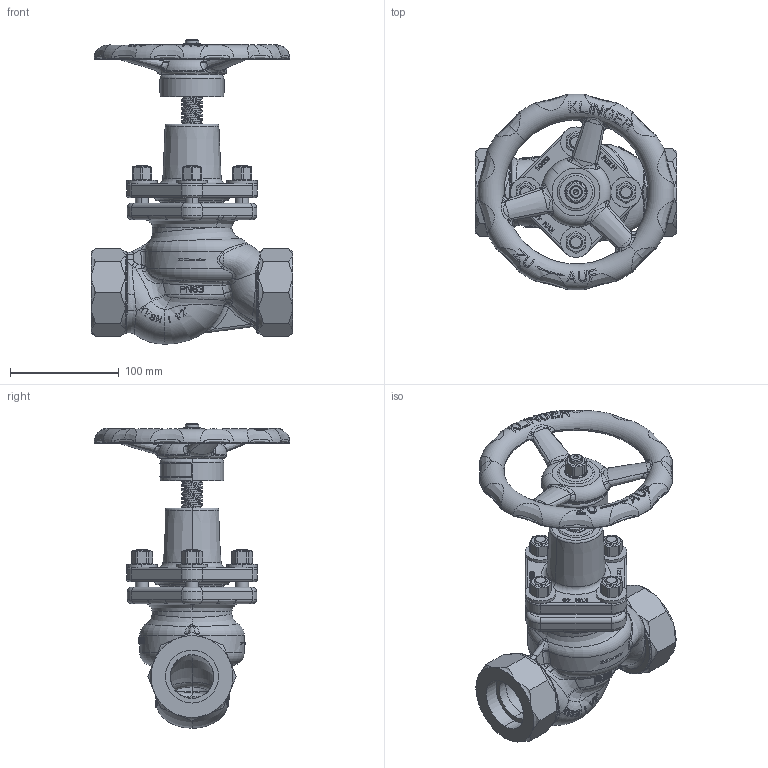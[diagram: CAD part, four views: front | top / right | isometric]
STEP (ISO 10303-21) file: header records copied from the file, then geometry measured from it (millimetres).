
FILE_DESCRIPTION((''),'2;1');
FILE_NAME('KVSN-S32S-----P063PGG_SW0001','2018-12-12T11:43:23',('jeitlers'),('KLINGER'),'CREO PARAMETRIC BY PTC INC, 2018190','CREO PARAMETRIC BY PTC INC, 2018190','');
FILE_SCHEMA(('AUTOMOTIVE_DESIGN { 1 0 10303 214 1 1 1 1 }'));
Products named in the file (1): KVSN-S32S-----P063PGG_SW0001
Bounding box: 185 x 179.93 x 279.8 mm (x, y, z)
Volume: 1087926.2 mm3; surface area: 263178.1 mm2
Topology: 3 solids, 14 shells, 3092 faces, 8173 edges, 5203 vertices
Faces by surface type: plane 1793, bspline 549, cylinder 383, torus 244, cone 109, extrusion 12, sphere 2
Entity records: 193891 total; most frequent: CARTESIAN_POINT 123737, ORIENTED_EDGE 16338, DIRECTION 11640, EDGE_CURVE 8169, VERTEX_POINT 5203, AXIS2_PLACEMENT_3D 4051, VECTOR 3535, LINE 3523
